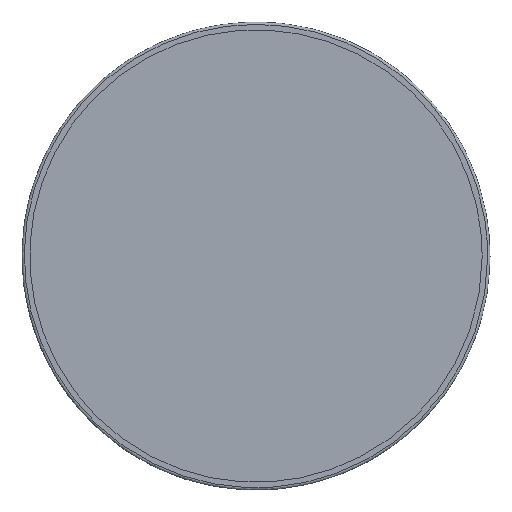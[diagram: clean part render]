
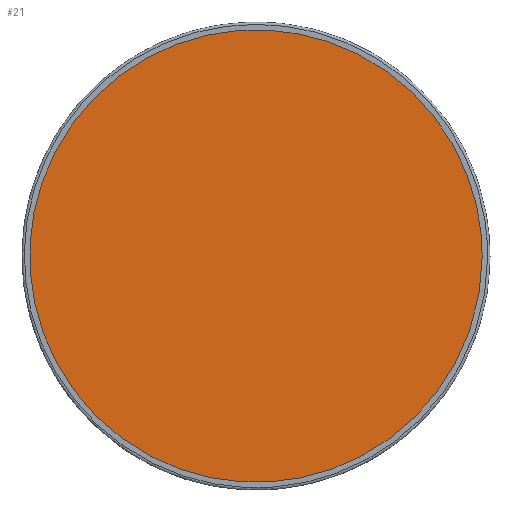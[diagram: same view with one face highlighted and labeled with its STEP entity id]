
A CAD part, top view. The second image highlights one B-rep face of the part: STEP entity #21.
In plain terms, the highlighted planar face has unit normal (0, 0, 1).
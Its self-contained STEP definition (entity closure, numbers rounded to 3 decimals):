
#21=ADVANCED_FACE('',(#32),#120,.T.);
#32=FACE_OUTER_BOUND('',#43,.T.);
#43=EDGE_LOOP('',(#59));
#59=ORIENTED_EDGE('',*,*,#83,.F.);
#83=EDGE_CURVE('',#111,#111,#97,.T.);
#97=(
BOUNDED_CURVE()
B_SPLINE_CURVE(2,(#191,#192,#193,#194,#195,#196,#197,#198,#199),
 .UNSPECIFIED.,.T.,.F.)
B_SPLINE_CURVE_WITH_KNOTS((3,2,2,2,3),(0.,455.531,911.062,
1366.593,1822.124),.UNSPECIFIED.)
CURVE()
GEOMETRIC_REPRESENTATION_ITEM()
RATIONAL_B_SPLINE_CURVE((1.,0.707,1.,0.707,1.,0.707,
1.,0.707,1.))
REPRESENTATION_ITEM('')
);
#111=VERTEX_POINT('',#189);
#120=PLANE('',#151);
#151=AXIS2_PLACEMENT_3D('',#187,#160,$);
#160=DIRECTION('',(0.,0.,1.));
#187=CARTESIAN_POINT('',(-362.5,362.5,29.9));
#189=CARTESIAN_POINT('',(290.,0.,29.9));
#191=CARTESIAN_POINT('',(290.,0.,29.9));
#192=CARTESIAN_POINT('',(290.,-290.,29.9));
#193=CARTESIAN_POINT('',(0.,-290.,29.9));
#194=CARTESIAN_POINT('',(-290.,-290.,29.9));
#195=CARTESIAN_POINT('',(-290.,0.,29.9));
#196=CARTESIAN_POINT('',(-290.,290.,29.9));
#197=CARTESIAN_POINT('',(0.,290.,29.9));
#198=CARTESIAN_POINT('',(290.,290.,29.9));
#199=CARTESIAN_POINT('',(290.,0.,29.9));
